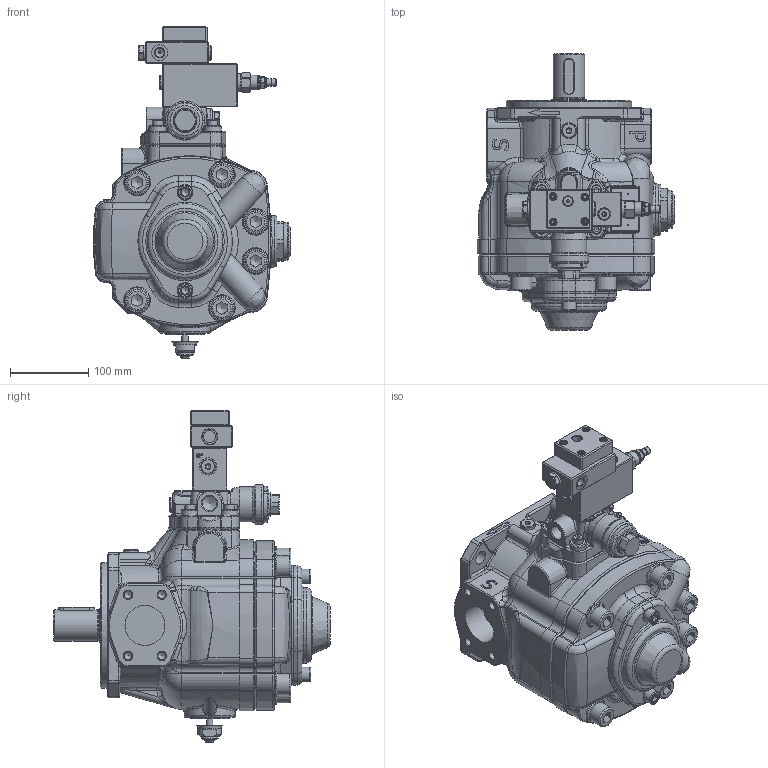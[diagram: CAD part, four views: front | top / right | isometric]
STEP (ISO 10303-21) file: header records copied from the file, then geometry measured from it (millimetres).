
FILE_DESCRIPTION(/* description */ (''),/* implementation_level */ '2;1');
FILE_NAME(/* name */ 'W:\Tecnico\Archivio\Berarma\Dimensioni Pompe\3D Export\Montaggio 3D semplificato\PLP-PHP 3\PHP 3 -A PCLS002.stp',/* time_stamp */ '2018-10-10T08:47:09+02:00',/* author */ ('marcop'),/* organization */ (''),/* preprocessor_version */ 'ST-DEVELOPER v17',/* originating_system */ 'Autodesk Inventor 2018',/* authorisation */ '');
FILE_SCHEMA (('AUTOMOTIVE_DESIGN { 1 0 10303 214 3 1 1 }'));
Products named in the file (1): PLP-PHP 3_Shrinkwrap_1
Bounding box: 251.18 x 352 x 423.1 mm (x, y, z)
Volume: 7234400.9 mm3; surface area: 607081.5 mm2
Topology: 2 solids, 2 shells, 2415 faces, 6118 edges, 3778 vertices
Faces by surface type: plane 886, cylinder 528, bspline 460, cone 249, torus 248, sphere 44
Full cylindrical faces by diameter (mm): 1.7 x4, 3 x3, 3.15 x1, 4 x5, 6 x2, 6.5 x1, 7.2 x1, 7.671 x2, 8 x2, 8.376 x4, 8.5 x4, 9 x4, 9.347 x2, 9.5 x1, 10.106 x4, 11.445 x5, 12 x5, 13 x4, 13.487 x1, 13.5 x1, 13.767 x2, 14 x3, 14.63 x1, 15.5 x2, 16 x2, 17.399 x1, 17.5 x1, 17.78 x1, 18 x6, 18.631 x1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
Entity records: 90873 total; most frequent: CARTESIAN_POINT 33152, ORIENTED_EDGE 12064, DIRECTION 10954, EDGE_CURVE 6032, AXIS2_PLACEMENT_3D 4280, VERTEX_POINT 3778, EDGE_LOOP 2584, STYLED_ITEM 2417
